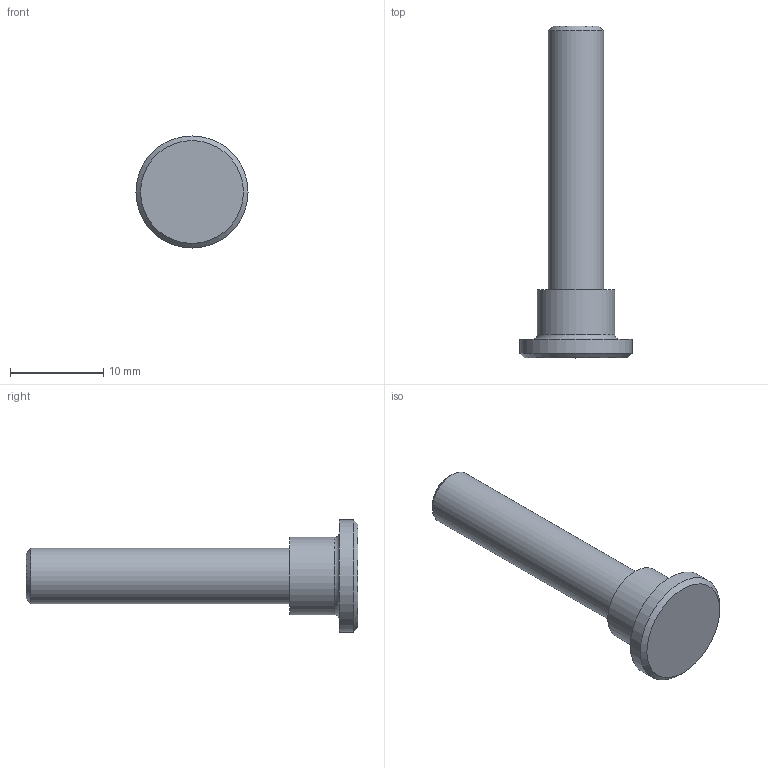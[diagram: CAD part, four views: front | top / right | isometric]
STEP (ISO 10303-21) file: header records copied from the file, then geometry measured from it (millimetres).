
FILE_DESCRIPTION (( 'STEP AP214' ), '1' );
FILE_NAME ('N30131.step', '2024-12-03T16:27:05', ( '' ), ( '' ), 'SwSTEP 2.0', 'SolidWorks 2023', '' );
FILE_SCHEMA (( 'AUTOMOTIVE_DESIGN' ));
Length unit declared in the file: millimetre
Products named in the file (1): N30131
Bounding box: 12 x 35.5 x 12 mm (x, y, z)
Volume: 1275.2 mm3; surface area: 939.1 mm2
Topology: 1 solids, 1 shells, 10 faces, 17 edges, 11 vertices
Faces by surface type: plane 4, cylinder 3, cone 2, torus 1
Full cylindrical faces by diameter (mm): 5.9 x1, 8.25 x1, 12 x1
Entity records: 217 total; most frequent: DIRECTION 40, CARTESIAN_POINT 29, AXIS2_PLACEMENT_3D 20, EDGE_LOOP 18, ORIENTED_EDGE 18, FACE_OUTER_BOUND 14, ADVANCED_FACE 10, VERTEX_POINT 9
